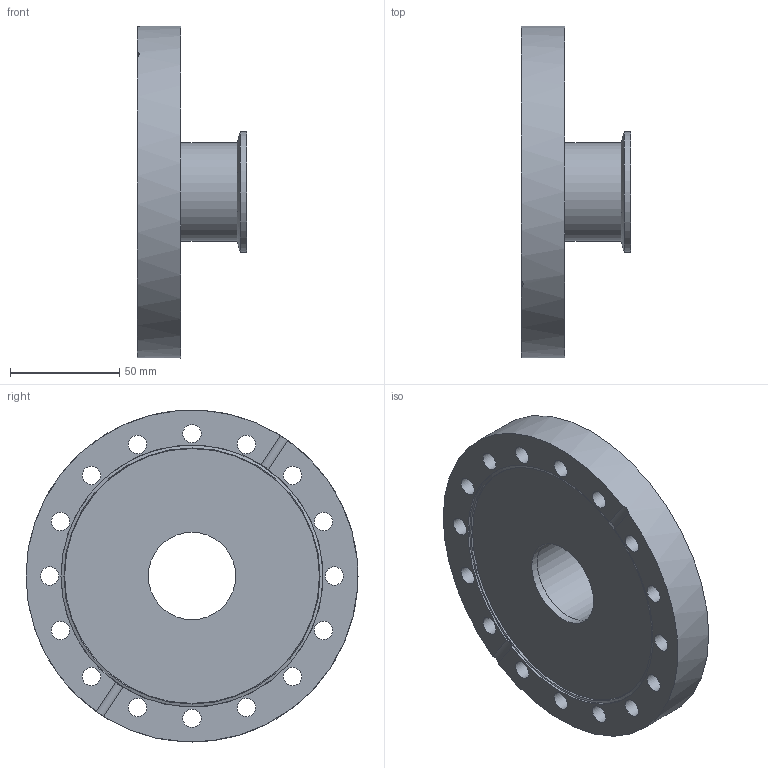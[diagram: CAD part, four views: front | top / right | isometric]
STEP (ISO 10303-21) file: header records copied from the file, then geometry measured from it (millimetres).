
FILE_DESCRIPTION( ( 'Unknown' ), '1' );
FILE_NAME( 'X:/Daten ( aktueller Bestand )/Projekte und Zeichnungen/Solid Edge/STP-Dateien/CF-Teile/7189.stp', 'Unknown', ( 'Unknown' ), ( 'Unknown' ), 'PSStep 14.0', 'Unknown', ' ' );
FILE_SCHEMA( ( 'AUTOMOTIVE_DESIGN { 1 0 10303 214 1 1 1 1 }' ) );
Length unit declared in the file: millimetre
Products named in the file (3): Assem1; 7189-3; 7185-1
Assembly tree (2 placements, depth 2):
  Assem1
    7189-3
    7185-1
Bounding box: 50 x 152 x 152 mm (x, y, z)
Volume: 318354 mm3; surface area: 67354.7 mm2
Topology: 2 solids, 2 shells, 37 faces, 105 edges, 74 vertices
Faces by surface type: cylinder 26, plane 8, cone 3
Full cylindrical faces by diameter (mm): 8.4 x16, 40 x2, 41.2 x1, 45 x2, 55 x1, 120 x1, 152 x1
Entity records: 1432 total; most frequent: CARTESIAN_POINT 224, DIRECTION 188, ORIENTED_EDGE 120, EDGE_LOOP 102, AXIS2_PLACEMENT_3D 92, FACE_OUTER_BOUND 61, EDGE_CURVE 60, VERTEX_POINT 56
